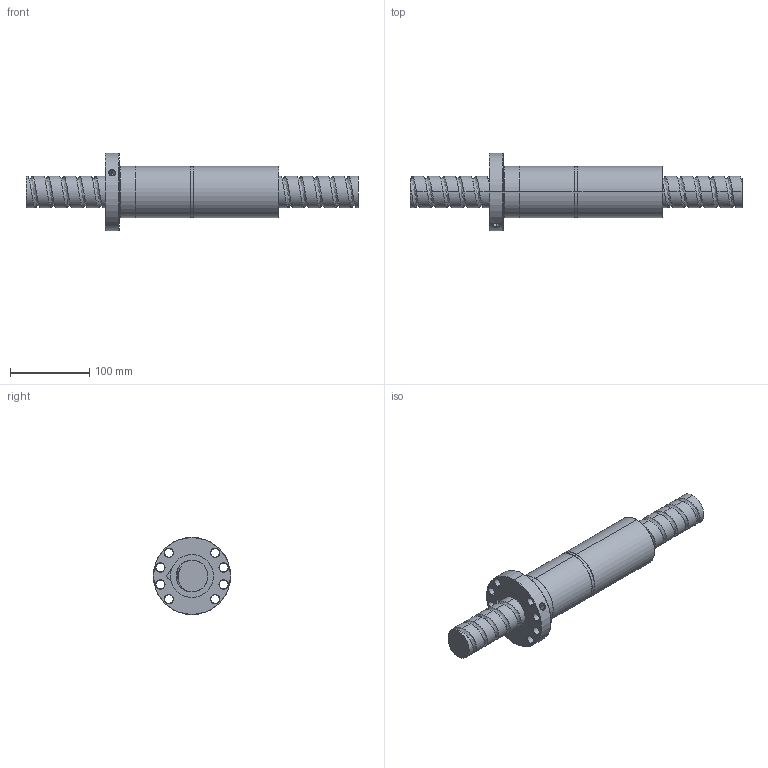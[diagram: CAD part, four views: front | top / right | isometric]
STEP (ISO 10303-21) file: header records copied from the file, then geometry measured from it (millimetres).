
FILE_DESCRIPTION (( 'STEP AP214' ), '1' );
FILE_NAME ('FDDC04020T4-F-A.STEP', '2010-07-07T02:13:56', ( 'XPAUTO' ), ( 'XPAUTO' ), 'SwSTEP 2.0', 'SolidWorks 2007', '' );
FILE_SCHEMA (( 'AUTOMOTIVE_DESIGN' ));
Length unit declared in the file: millimetre
Products named in the file (3): FDDC04020T4-F-A.sldasm-Part-1_預設; FDDC04020T4-F-A; FDDC04020T4-F-A.sldasm-Part-2_預設
Assembly tree (2 placements, depth 2):
  FDDC04020T4-F-A
    FDDC04020T4-F-A.sldasm-Part-2_預設
    FDDC04020T4-F-A.sldasm-Part-1_預設
Bounding box: 420 x 98 x 98 mm (x, y, z)
Volume: 1020306.7 mm3; surface area: 153367.9 mm2
Topology: 2 solids, 2 shells, 173 faces, 438 edges, 275 vertices
Faces by surface type: cylinder 109, cone 32, plane 16, torus 10, bspline 6
Entity records: 40919 total; most frequent: CARTESIAN_POINT 36829, ORIENTED_EDGE 876, DIRECTION 782, EDGE_CURVE 438, AXIS2_PLACEMENT_3D 317, VERTEX_POINT 275, EDGE_LOOP 197, FACE_OUTER_BOUND 173
